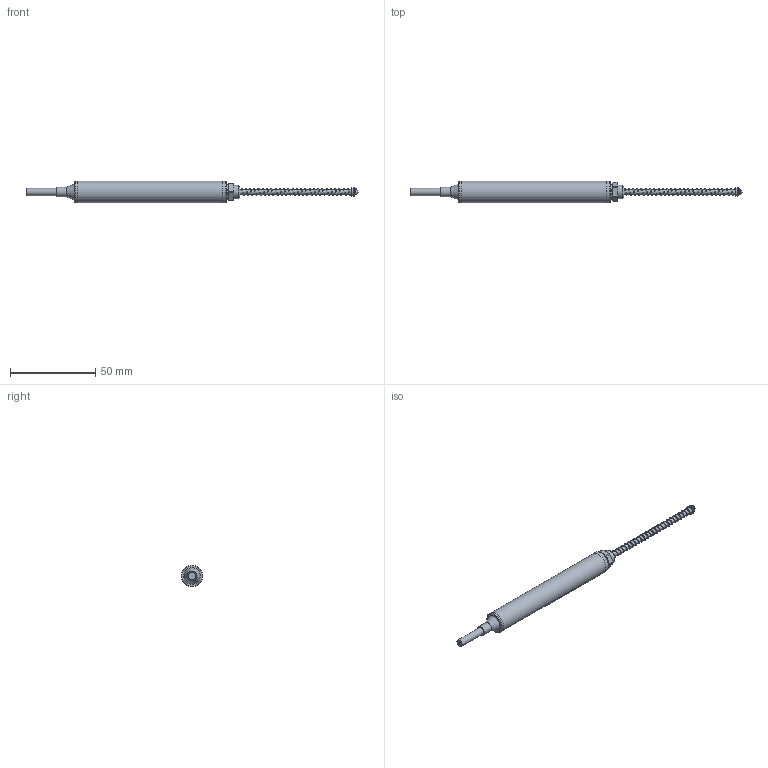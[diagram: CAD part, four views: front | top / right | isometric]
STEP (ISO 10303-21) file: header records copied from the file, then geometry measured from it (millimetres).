
FILE_DESCRIPTION( ('This file contains a STEP AP42 implementation' ,'as created by ZW3D STEP Interface translator.' ,'') ,'2;1' );
FILE_NAME( 'KPM12R2-50.stp' ,'25 3 5. 81037', (''), ('ZWCAD Software Co.'), 'Version 1.0', 'ZW3D to STEP translator', '' );
FILE_SCHEMA(('AUTOMOTIVE_DESIGN { 1 0 10303 214 1 1 1 1 }'));
Length unit declared in the file: millimetre
Products named in the file (1): 0
Bounding box: 195.2 x 12.7 x 12.7 mm (x, y, z)
Volume: 12805 mm3; surface area: 6879.6 mm2
Topology: 12 solids, 12 shells, 89 faces, 193 edges, 135 vertices
Faces by surface type: plane 45, cylinder 33, cone 7, bspline 3, sphere 1
Full cylindrical faces by diameter (mm): 1.9 x1, 2.9 x2, 3 x1, 3.2 x3, 4.3 x3, 5 x2, 5.6 x1, 8 x2, 9 x1, 12.7 x3
Entity records: 24850 total; most frequent: CARTESIAN_POINT 22747, DIRECTION 426, ORIENTED_EDGE 380, EDGE_CURVE 190, AXIS2_PLACEMENT_3D 178, VERTEX_POINT 134, EDGE_LOOP 104, CIRCLE 91
